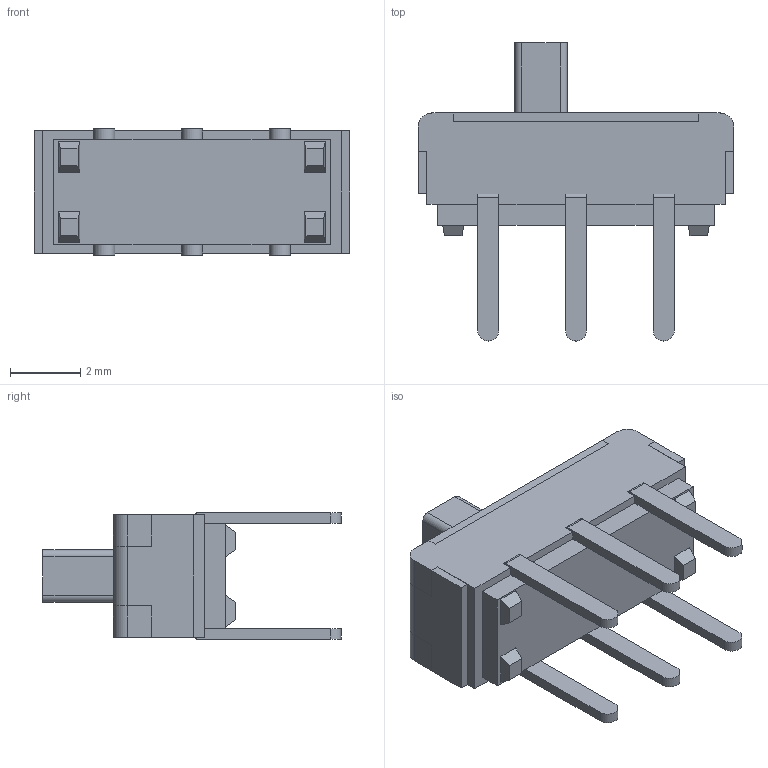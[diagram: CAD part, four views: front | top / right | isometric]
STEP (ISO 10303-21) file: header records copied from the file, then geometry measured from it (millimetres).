
FILE_DESCRIPTION (( 'STEP AP214' ), '1' );
FILE_NAME ('SSSS222700.STEP', '2010-06-10T09:53:24', ( ' ' ), ( '' ), 'SwSTEP 2.0', 'SolidWorks 2007', '' );
FILE_SCHEMA (( 'AUTOMOTIVE_DESIGN' ));
Length unit declared in the file: millimetre
Products named in the file (1): SSSS222700
Bounding box: 9 x 8.5 x 3.6 mm (x, y, z)
Volume: 99.8 mm3; surface area: 287.7 mm2
Topology: 3 solids, 3 shells, 161 faces, 438 edges, 288 vertices
Faces by surface type: plane 133, cylinder 28
Entity records: 6828 total; most frequent: CARTESIAN_POINT 888, ORIENTED_EDGE 876, DIRECTION 818, EDGE_CURVE 438, VECTOR 382, LINE 382, VERTEX_POINT 288, AXIS2_PLACEMENT_3D 218
